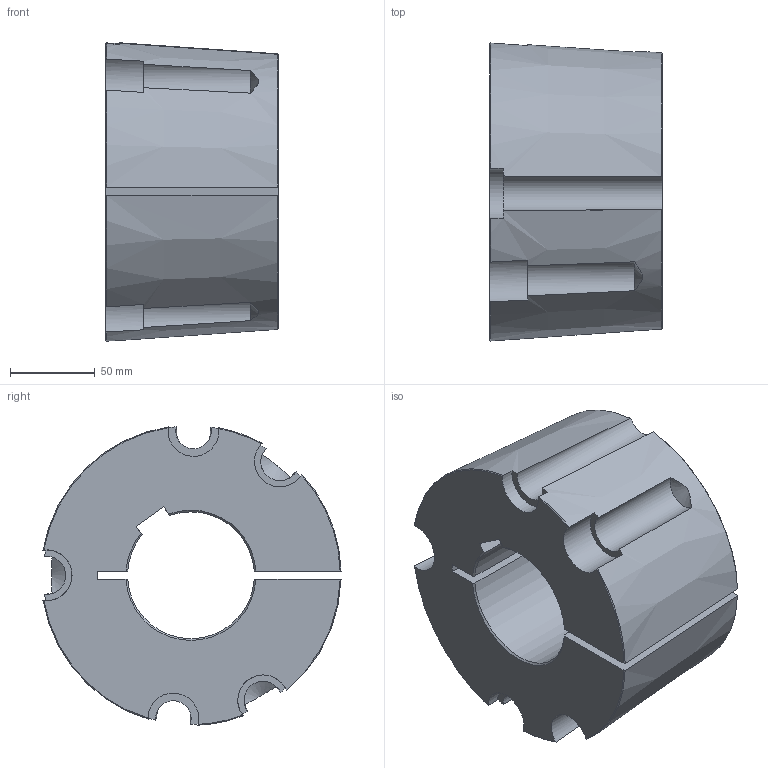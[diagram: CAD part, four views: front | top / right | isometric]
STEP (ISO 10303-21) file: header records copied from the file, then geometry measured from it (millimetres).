
FILE_DESCRIPTION(/* description */ (''),/* implementation_level */ '2;1');
FILE_NAME(/* name */ 'C:\Users\stagistaCAD\Desktop\Nuova cartella\29504075.stp',/* time_stamp */ '2018-06-29T14:17:01+02:00',/* author */ ('stagistacad'),/* organization */ (''),/* preprocessor_version */ 'ST-DEVELOPER v15.6',/* originating_system */ 'Autodesk Inventor 2015',/* authorisation */ '');
FILE_SCHEMA (('AUTOMOTIVE_DESIGN { 1 0 10303 214 3 1 1 }'));
Length unit declared in the file: millimetre
Products named in the file (1): 29504075
Bounding box: 102 x 176.23 x 176.47 mm (x, y, z)
Volume: 1732033.5 mm3; surface area: 132314.1 mm2
Topology: 1 solids, 1 shells, 51 faces, 147 edges, 98 vertices
Faces by surface type: cone 21, plane 15, cylinder 15
Entity records: 1854 total; most frequent: CARTESIAN_POINT 538, ORIENTED_EDGE 294, DIRECTION 264, EDGE_CURVE 147, AXIS2_PLACEMENT_3D 116, VERTEX_POINT 98, CIRCLE 64, FACE_OUTER_BOUND 51
